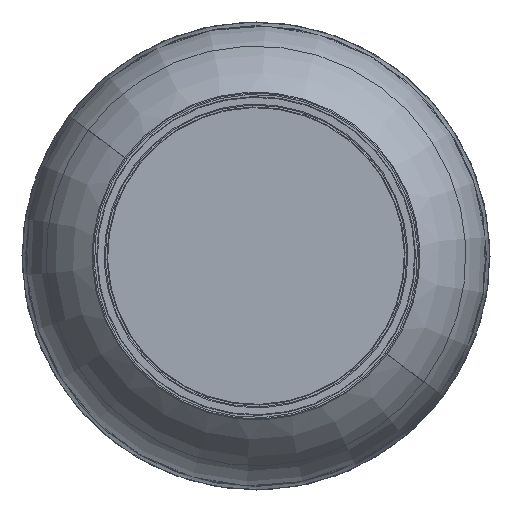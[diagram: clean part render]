
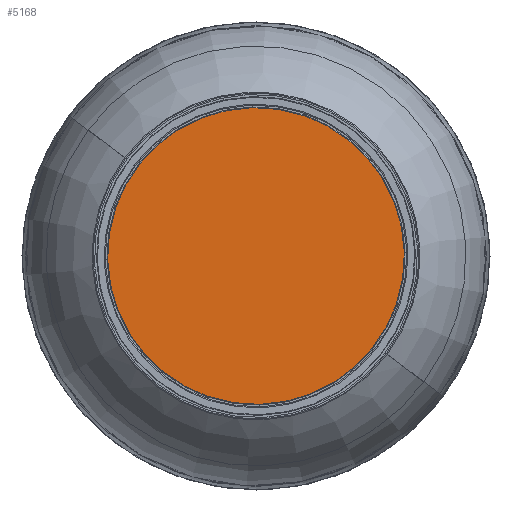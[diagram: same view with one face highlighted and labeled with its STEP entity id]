
A CAD part, front view. The second image highlights one B-rep face of the part: STEP entity #5168.
In plain terms, the highlighted planar face has unit normal (0, -1, 0).
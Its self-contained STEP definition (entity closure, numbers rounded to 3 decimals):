
#266 = EDGE_CURVE ( 'NONE', #2272, #532, #6225, .T. ) ;
#532 = VERTEX_POINT ( 'NONE', #1356 ) ;
#822 = AXIS2_PLACEMENT_3D ( 'NONE', #3482, #1371, #1825 ) ;
#1027 = DIRECTION ( 'NONE',  ( 0., -1., 0. ) ) ;
#1229 = AXIS2_PLACEMENT_3D ( 'NONE', #5111, #1027, #3134 ) ;
#1356 = CARTESIAN_POINT ( 'NONE',  ( 0., -1.5, -42.8 ) ) ;
#1371 = DIRECTION ( 'NONE',  ( 0., -1., 0. ) ) ;
#1576 = CARTESIAN_POINT ( 'NONE',  ( 0., -1.5, 42.8 ) ) ;
#1825 = DIRECTION ( 'NONE',  ( 0., 0., -1. ) ) ;
#1949 = DIRECTION ( 'NONE',  ( 0., 0., -1. ) ) ;
#2008 = EDGE_LOOP ( 'NONE', ( #3672, #5008 ) ) ;
#2272 = VERTEX_POINT ( 'NONE', #1576 ) ;
#2511 = FACE_OUTER_BOUND ( 'NONE', #2008, .T. ) ;
#3057 = PLANE ( 'NONE',  #6467 ) ;
#3134 = DIRECTION ( 'NONE',  ( 0., 0., -1. ) ) ;
#3482 = CARTESIAN_POINT ( 'NONE',  ( 0., -1.5, 0. ) ) ;
#3672 = ORIENTED_EDGE ( 'NONE', *, *, #266, .T. ) ;
#5008 = ORIENTED_EDGE ( 'NONE', *, *, #6148, .T. ) ;
#5111 = CARTESIAN_POINT ( 'NONE',  ( 0., -1.5, 0. ) ) ;
#5163 = DIRECTION ( 'NONE',  ( 0., -1., 0. ) ) ;
#5168 = ADVANCED_FACE ( 'NONE', ( #2511 ), #3057, .T. ) ;
#5251 = CIRCLE ( 'NONE', #822, 42.8 ) ;
#6148 = EDGE_CURVE ( 'NONE', #532, #2272, #5251, .T. ) ;
#6225 = CIRCLE ( 'NONE', #1229, 42.8 ) ;
#6467 = AXIS2_PLACEMENT_3D ( 'NONE', #6741, #5163, #1949 ) ;
#6741 = CARTESIAN_POINT ( 'NONE',  ( 0., -1.5, 0. ) ) ;
